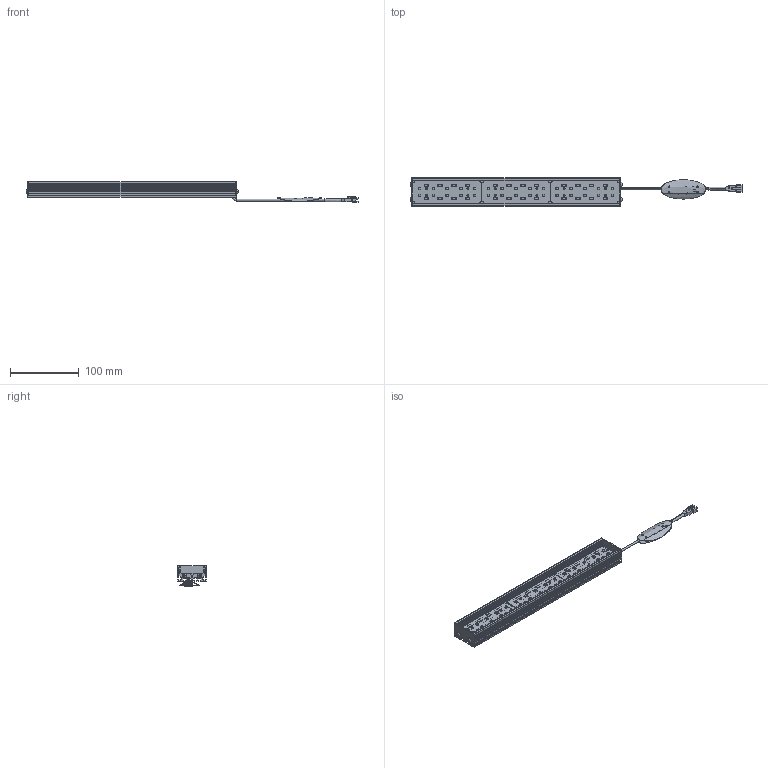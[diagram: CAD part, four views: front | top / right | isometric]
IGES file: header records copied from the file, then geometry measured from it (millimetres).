
Start section: 3D InterOp IGES (v. 2019 1.0.2), Spatial Corp. Copyright (c) 1999-2017.
Global section: file name: VBA-30030UV365_DRAWING_3D.iges; native system: Spatial Corp.; preprocessor: 3D InterOp ACIS/IGES; author: Noname; organization: Noname; date: 20240814.135712; units: millimetre
Bounding box: 482.2 x 41 x 30.5 mm (x, y, z)
Surface area: 126006.4 mm2 (no closed solid volume)
Topology: 0 solids, 0 shells, 1924 faces, 10152 edges, 10008 vertices
Faces by surface type: extrusion 1360, revolution 550, bspline 14
